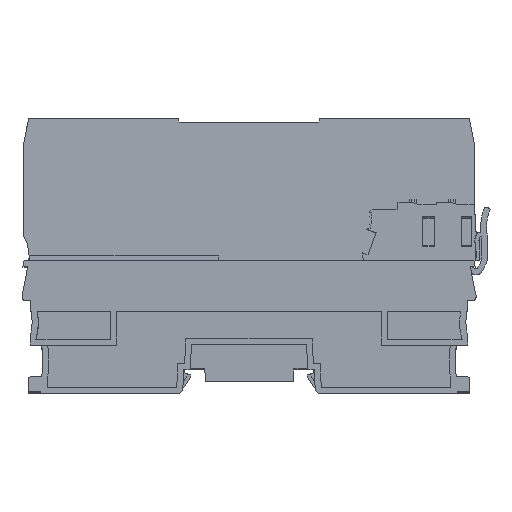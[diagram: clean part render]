
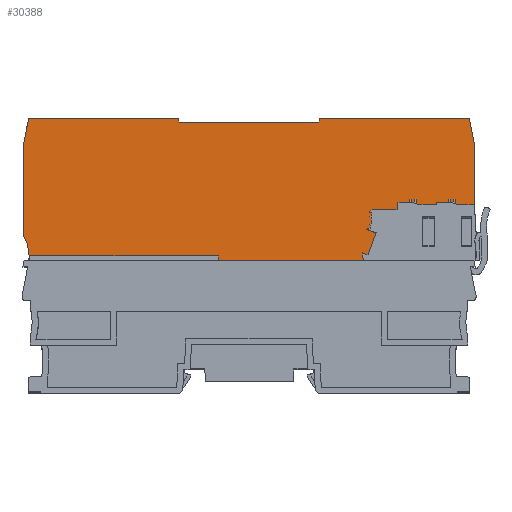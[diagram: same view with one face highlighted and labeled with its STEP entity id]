
A CAD part, top view. The second image highlights one B-rep face of the part: STEP entity #30388.
In plain terms, the highlighted planar face has unit normal (0, 0.009, 1).
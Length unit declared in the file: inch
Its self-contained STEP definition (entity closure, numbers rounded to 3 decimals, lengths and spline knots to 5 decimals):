
#7604=DIRECTION('',(0.,-1.,0.009));
#7605=VECTOR('',#7604,0.99192);
#7606=CARTESIAN_POINT('',(3.07895,2.41291,0.94183));
#7607=LINE('',#7606,#7605);
#7772=DIRECTION('',(1.,0.,0.));
#7773=VECTOR('',#7772,0.00075);
#7774=CARTESIAN_POINT('',(-1.6463,1.15725,
0.95279));
#7775=LINE('',#7774,#7773);
#7776=DIRECTION('',(-0.122,0.993,-0.009));
#7777=VECTOR('',#7776,0.03967);
#7778=CARTESIAN_POINT('',(-0.05235,2.62969,
0.93994));
#7779=LINE('',#7778,#7777);
#7780=DIRECTION('',(-1.,0.,0.));
#7781=VECTOR('',#7780,1.48307);
#7782=CARTESIAN_POINT('',(1.43072,2.62969,0.93994));
#7783=LINE('',#7782,#7781);
#7784=DIRECTION('',(-0.122,-0.993,0.009));
#7785=VECTOR('',#7784,0.03967);
#7786=CARTESIAN_POINT('',(1.43555,2.66906,0.9396));
#7787=LINE('',#7786,#7785);
#7788=DIRECTION('',(-1.,0.,0.));
#7789=VECTOR('',#7788,1.59221);
#7790=CARTESIAN_POINT('',(3.02776,2.66906,0.9396));
#7791=LINE('',#7790,#7789);
#7792=DIRECTION('',(-0.196,0.981,-0.009));
#7793=VECTOR('',#7792,0.26123);
#7794=CARTESIAN_POINT('',(3.07895,2.41291,0.94183));
#7795=LINE('',#7794,#7793);
#7796=DIRECTION('',(1.,0.,0.));
#7797=VECTOR('',#7796,2.65439);
#7798=CARTESIAN_POINT('',(0.37028,1.15725,
0.95279));
#7799=LINE('',#7798,#7797);
#7800=DIRECTION('',(0.191,-0.982,0.009));
#7801=VECTOR('',#7800,0.05237);
#7802=CARTESIAN_POINT('',(0.36029,1.20866,
0.95234));
#7803=LINE('',#7802,#7801);
#7804=DIRECTION('',(0.191,0.982,-0.009));
#7805=VECTOR('',#7804,0.05237);
#7806=CARTESIAN_POINT('',(-1.64555,1.15725,
0.95279));
#7807=LINE('',#7806,#7805);
#7808=CARTESIAN_POINT('',(-1.6463,1.15725,
0.95279));
#7809=CARTESIAN_POINT('',(-1.64499,1.17145,
0.95267));
#7810=CARTESIAN_POINT('',(-1.64433,1.18567,
0.95254));
#7811=CARTESIAN_POINT('',(-1.64433,1.19993,
0.95242));
#7827=CARTESIAN_POINT('',(-1.64433,1.19993,
0.95242));
#7828=CARTESIAN_POINT('',(-1.64433,1.2784,
0.95173));
#7829=CARTESIAN_POINT('',(-1.66308,1.3521,
0.95109));
#7830=CARTESIAN_POINT('',(-1.70058,1.42103,
0.95049));
#7928=DIRECTION('',(0.,1.,-0.009));
#7929=VECTOR('',#7928,0.99192);
#7930=CARTESIAN_POINT('',(-1.70058,1.42103,
0.95049));
#7931=LINE('',#7930,#7929);
#8174=DIRECTION('',(0.196,0.981,-0.009));
#8175=VECTOR('',#8174,0.26123);
#8176=CARTESIAN_POINT('',(-1.70058,2.41291,
0.94183));
#8177=LINE('',#8176,#8175);
#8330=DIRECTION('',(1.,0.,0.));
#8331=VECTOR('',#8330,1.59221);
#8332=CARTESIAN_POINT('',(-1.6494,2.66906,
0.9396));
#8333=LINE('',#8332,#8331);
#11460=CARTESIAN_POINT('',(3.07895,1.42103,
0.95049));
#11461=CARTESIAN_POINT('',(3.04145,1.3521,
0.95109));
#11462=CARTESIAN_POINT('',(3.0227,1.2784,0.95173));
#11463=CARTESIAN_POINT('',(3.0227,1.19993,
0.95242));
#11478=CARTESIAN_POINT('',(3.0227,1.19993,
0.95242));
#11479=CARTESIAN_POINT('',(3.0227,1.18567,
0.95254));
#11480=CARTESIAN_POINT('',(3.02335,1.17145,
0.95267));
#11481=CARTESIAN_POINT('',(3.02467,1.15725,
0.95279));
#11507=DIRECTION('',(-1.,0.,0.));
#11508=VECTOR('',#11507,1.99585);
#11509=CARTESIAN_POINT('',(0.36029,1.20866,
0.95234));
#11510=LINE('',#11509,#11508);
#16019=VERTEX_POINT('',#7827);
#16020=VERTEX_POINT('',#7830);
#16021=VERTEX_POINT('',#7808);
#16022=CARTESIAN_POINT('',(-1.70058,2.41291,
0.94183));
#16023=VERTEX_POINT('',#16022);
#16024=CARTESIAN_POINT('',(-1.6494,2.66906,
0.9396));
#16025=VERTEX_POINT('',#16024);
#16026=CARTESIAN_POINT('',(-0.05718,2.66906,
0.9396));
#16027=VERTEX_POINT('',#16026);
#16028=CARTESIAN_POINT('',(-0.05235,2.62969,
0.93994));
#16029=VERTEX_POINT('',#16028);
#16030=CARTESIAN_POINT('',(1.43072,2.62969,
0.93994));
#16031=VERTEX_POINT('',#16030);
#16032=CARTESIAN_POINT('',(1.43555,2.66906,
0.9396));
#16033=VERTEX_POINT('',#16032);
#16034=CARTESIAN_POINT('',(3.02776,2.66906,
0.9396));
#16035=VERTEX_POINT('',#16034);
#16036=CARTESIAN_POINT('',(3.07895,2.41291,
0.94183));
#16037=VERTEX_POINT('',#16036);
#16038=CARTESIAN_POINT('',(3.07895,1.42103,
0.95049));
#16039=VERTEX_POINT('',#16038);
#16040=VERTEX_POINT('',#11478);
#16041=VERTEX_POINT('',#11481);
#16042=CARTESIAN_POINT('',(0.37028,1.15725,
0.95279));
#16043=VERTEX_POINT('',#16042);
#16044=CARTESIAN_POINT('',(0.36029,1.20866,
0.95234));
#16045=VERTEX_POINT('',#16044);
#16046=CARTESIAN_POINT('',(-1.63556,1.20866,
0.95234));
#16047=VERTEX_POINT('',#16046);
#16048=CARTESIAN_POINT('',(-1.64555,1.15725,
0.95279));
#16049=VERTEX_POINT('',#16048);
#30350=CARTESIAN_POINT('',(2.954,1.04112,0.9538));
#30351=DIRECTION('',(0.,-0.009,-1.));
#30352=DIRECTION('',(-1.,0.,0.));
#30353=AXIS2_PLACEMENT_3D('',#30350,#30351,#30352);
#30354=PLANE('',#30353);
#30355=ORIENTED_EDGE('',*,*,#24561,.F.);
#30357=ORIENTED_EDGE('',*,*,#30356,.T.);
#30359=ORIENTED_EDGE('',*,*,#30358,.T.);
#30361=ORIENTED_EDGE('',*,*,#30360,.T.);
#30363=ORIENTED_EDGE('',*,*,#30362,.T.);
#30365=ORIENTED_EDGE('',*,*,#30364,.T.);
#30367=ORIENTED_EDGE('',*,*,#30366,.F.);
#30369=ORIENTED_EDGE('',*,*,#30368,.F.);
#30371=ORIENTED_EDGE('',*,*,#30370,.F.);
#30372=ORIENTED_EDGE('',*,*,#30333,.F.);
#30373=ORIENTED_EDGE('',*,*,#30286,.F.);
#30374=ORIENTED_EDGE('',*,*,#30115,.T.);
#30376=ORIENTED_EDGE('',*,*,#30375,.T.);
#30378=ORIENTED_EDGE('',*,*,#30377,.T.);
#30379=ORIENTED_EDGE('',*,*,#24569,.F.);
#30381=ORIENTED_EDGE('',*,*,#30380,.F.);
#30383=ORIENTED_EDGE('',*,*,#30382,.T.);
#30385=ORIENTED_EDGE('',*,*,#30384,.F.);
#30386=EDGE_LOOP('',(#30355,#30357,#30359,#30361,#30363,#30365,#30367,#30369,
#30371,#30372,#30373,#30374,#30376,#30378,#30379,#30381,#30383,#30385));
#30387=FACE_OUTER_BOUND('',#30386,.F.);
#30388=ADVANCED_FACE('',(#30387),#30354,.F.);
#7812=B_SPLINE_CURVE_WITH_KNOTS('',3,(#7808,#7809,#7810,#7811),.UNSPECIFIED.,
.F.,.F.,(4,4),(0.,1.),.UNSPECIFIED.);
#7831=B_SPLINE_CURVE_WITH_KNOTS('',3,(#7827,#7828,#7829,#7830),.UNSPECIFIED.,
.F.,.F.,(4,4),(0.,1.),.UNSPECIFIED.);
#11464=B_SPLINE_CURVE_WITH_KNOTS('',3,(#11460,#11461,#11462,#11463),
.UNSPECIFIED.,.F.,.F.,(4,4),(0.,1.),.UNSPECIFIED.);
#11482=B_SPLINE_CURVE_WITH_KNOTS('',3,(#11478,#11479,#11480,#11481),
.UNSPECIFIED.,.F.,.F.,(4,4),(0.,1.),.UNSPECIFIED.);
#24561=EDGE_CURVE('',#16021,#16049,#7775,.T.);
#24569=EDGE_CURVE('',#16043,#16041,#7799,.T.);
#30115=EDGE_CURVE('',#16037,#16039,#7607,.T.);
#30286=EDGE_CURVE('',#16037,#16035,#7795,.T.);
#30333=EDGE_CURVE('',#16035,#16033,#7791,.T.);
#30356=EDGE_CURVE('',#16021,#16019,#7812,.T.);
#30358=EDGE_CURVE('',#16019,#16020,#7831,.T.);
#30360=EDGE_CURVE('',#16020,#16023,#7931,.T.);
#30362=EDGE_CURVE('',#16023,#16025,#8177,.T.);
#30364=EDGE_CURVE('',#16025,#16027,#8333,.T.);
#30366=EDGE_CURVE('',#16029,#16027,#7779,.T.);
#30368=EDGE_CURVE('',#16031,#16029,#7783,.T.);
#30370=EDGE_CURVE('',#16033,#16031,#7787,.T.);
#30375=EDGE_CURVE('',#16039,#16040,#11464,.T.);
#30377=EDGE_CURVE('',#16040,#16041,#11482,.T.);
#30380=EDGE_CURVE('',#16045,#16043,#7803,.T.);
#30382=EDGE_CURVE('',#16045,#16047,#11510,.T.);
#30384=EDGE_CURVE('',#16049,#16047,#7807,.T.);
